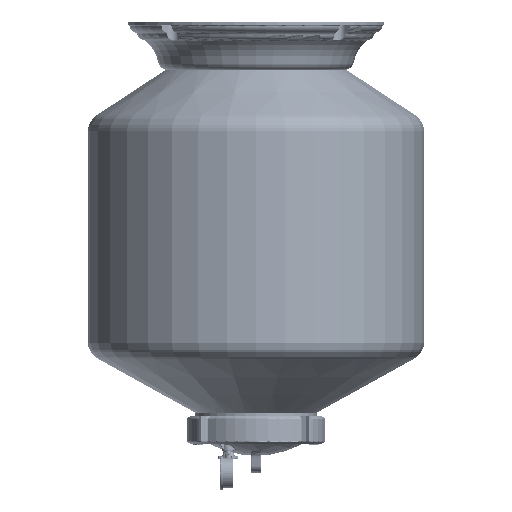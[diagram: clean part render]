
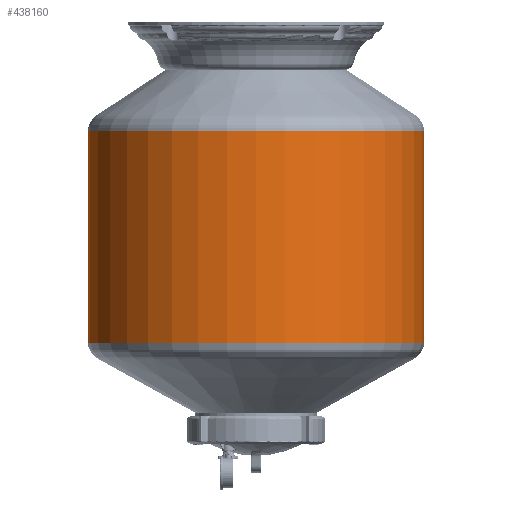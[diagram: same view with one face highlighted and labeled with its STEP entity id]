
A CAD part, front view. The second image highlights one B-rep face of the part: STEP entity #438160.
In plain terms, the highlighted cylindrical face has radius 317 mm (diameter 634 mm), a partial arc.
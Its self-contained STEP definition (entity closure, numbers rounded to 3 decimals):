
#9000 = VECTOR ( 'NONE', #329587, 1000. ) ;
#16574 = DIRECTION ( 'NONE',  ( 0., 0., 1. ) ) ;
#20740 = EDGE_LOOP ( 'NONE', ( #251985, #531887, #302253, #512660 ) ) ;
#32816 = CARTESIAN_POINT ( 'NONE',  ( -317., 0., -605. ) ) ;
#32936 = CARTESIAN_POINT ( 'NONE',  ( 0., 0., -605. ) ) ;
#62193 = DIRECTION ( 'NONE',  ( 0., 0., -1. ) ) ;
#68818 = EDGE_CURVE ( 'NONE', #164862, #327907, #473102, .T. ) ;
#71135 = EDGE_CURVE ( 'NONE', #164862, #391873, #415943, .T. ) ;
#100810 = CARTESIAN_POINT ( 'NONE',  ( -317., 0., -205. ) ) ;
#129004 = AXIS2_PLACEMENT_3D ( 'NONE', #32936, #529457, #238050 ) ;
#135384 = DIRECTION ( 'NONE',  ( 1., 0., 0. ) ) ;
#146926 = EDGE_CURVE ( 'NONE', #327907, #290820, #165159, .T. ) ;
#164862 = VERTEX_POINT ( 'NONE', #100810 ) ;
#165159 = LINE ( 'NONE', #532309, #470015 ) ;
#221355 = EDGE_CURVE ( 'NONE', #391873, #290820, #456632, .T. ) ;
#238050 = DIRECTION ( 'NONE',  ( 1., 0., 0. ) ) ;
#240465 = AXIS2_PLACEMENT_3D ( 'NONE', #381099, #16574, #135384 ) ;
#251985 = ORIENTED_EDGE ( 'NONE', *, *, #146926, .F. ) ;
#288009 = CARTESIAN_POINT ( 'NONE',  ( 317., 0., -205. ) ) ;
#290820 = VERTEX_POINT ( 'NONE', #356489 ) ;
#302253 = ORIENTED_EDGE ( 'NONE', *, *, #71135, .T. ) ;
#310559 = DIRECTION ( 'NONE',  ( -1., 0., 0. ) ) ;
#313233 = FACE_OUTER_BOUND ( 'NONE', #20740, .T. ) ;
#327907 = VERTEX_POINT ( 'NONE', #288009 ) ;
#329587 = DIRECTION ( 'NONE',  ( 0., 0., -1. ) ) ;
#356489 = CARTESIAN_POINT ( 'NONE',  ( 317., 0., -605. ) ) ;
#381099 = CARTESIAN_POINT ( 'NONE',  ( 0., 0., -205. ) ) ;
#391563 = CYLINDRICAL_SURFACE ( 'NONE', #419669, 317. ) ;
#391873 = VERTEX_POINT ( 'NONE', #32816 ) ;
#408247 = DIRECTION ( 'NONE',  ( 0., 0., -1. ) ) ;
#410642 = CARTESIAN_POINT ( 'NONE',  ( -317., 0., -205. ) ) ;
#415943 = LINE ( 'NONE', #410642, #9000 ) ;
#419669 = AXIS2_PLACEMENT_3D ( 'NONE', #518305, #62193, #310559 ) ;
#438160 = ADVANCED_FACE ( 'NONE', ( #313233 ), #391563, .T. ) ;
#456632 = CIRCLE ( 'NONE', #129004, 317. ) ;
#470015 = VECTOR ( 'NONE', #408247, 1000. ) ;
#473102 = CIRCLE ( 'NONE', #240465, 317. ) ;
#512660 = ORIENTED_EDGE ( 'NONE', *, *, #221355, .T. ) ;
#518305 = CARTESIAN_POINT ( 'NONE',  ( 0., 0., -205. ) ) ;
#529457 = DIRECTION ( 'NONE',  ( 0., 0., 1. ) ) ;
#531887 = ORIENTED_EDGE ( 'NONE', *, *, #68818, .F. ) ;
#532309 = CARTESIAN_POINT ( 'NONE',  ( 317., 0., -205. ) ) ;
